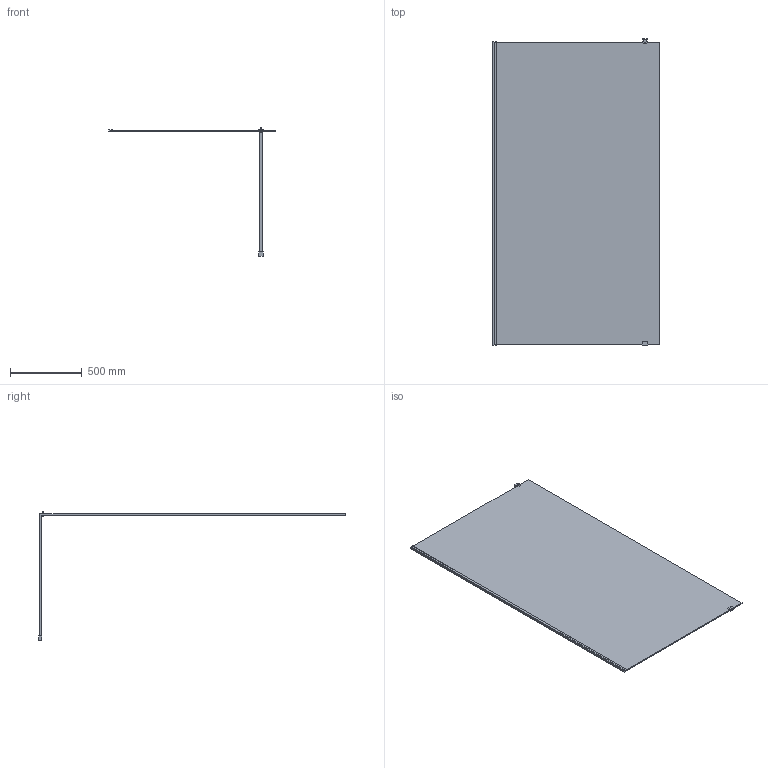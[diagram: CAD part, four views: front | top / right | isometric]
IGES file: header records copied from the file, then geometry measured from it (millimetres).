
Start section: SolidWorks IGES file using analytic representation for surfaces
Global section: file name: D:\Users\M.Szymanski\Desktop\Kabiny\PIII_ALTIIa\03. do przegrania\PIII_ALTIIa_120_K3D.IGS; native system: SolidWorks 2011; preprocessor: SolidWorks 2011; author: M.Szymanski; date: 181005.104324; units: millimetre
Bounding box: 1158.45 x 2128 x 894.4 mm (x, y, z)
Surface area: 5168224.1 mm2 (no closed solid volume)
Topology: 0 solids, 0 shells, 52 faces, 372 edges, 496 vertices
Faces by surface type: bspline 52
